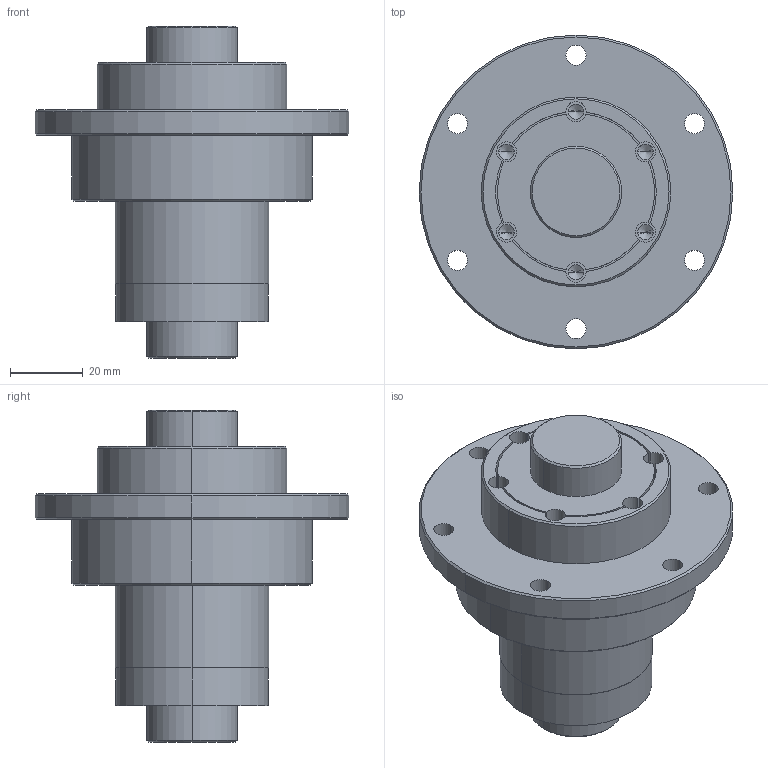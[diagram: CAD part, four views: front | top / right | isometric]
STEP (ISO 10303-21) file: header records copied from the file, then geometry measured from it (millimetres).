
FILE_DESCRIPTION (( 'STEP AP203' ), '1' );
FILE_NAME ('RLSF25.STEP', '2014-11-13T05:17:38', ( '' ), ( '' ), 'SwSTEP 2.0', 'SolidWorks 2014', '' );
FILE_SCHEMA (( 'CONFIG_CONTROL_DESIGN' ));
Length unit declared in the file: millimetre
Products named in the file (1): RLSF25
Bounding box: 86 x 86 x 91 mm (x, y, z)
Volume: 181374.9 mm3; surface area: 42222.8 mm2
Topology: 3 solids, 3 shells, 109 faces, 270 edges, 166 vertices
Faces by surface type: cylinder 74, cone 24, plane 11
Entity records: 3313 total; most frequent: DIRECTION 638, CARTESIAN_POINT 534, ORIENTED_EDGE 516, AXIS2_PLACEMENT_3D 270, EDGE_CURVE 258, VERTEX_POINT 166, CIRCLE 160, EDGE_LOOP 136
